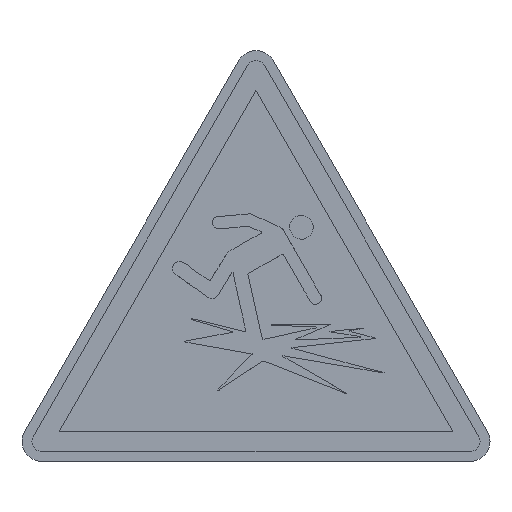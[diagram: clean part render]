
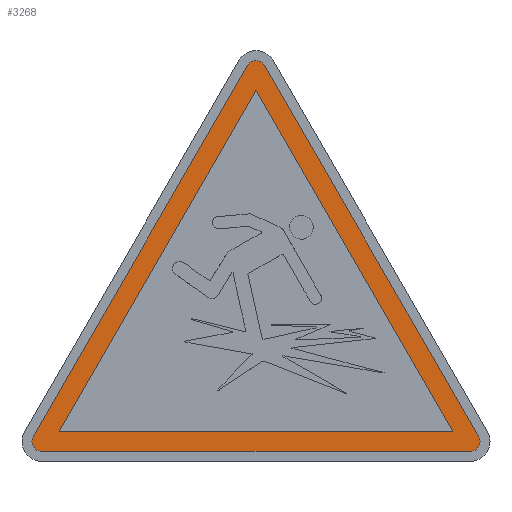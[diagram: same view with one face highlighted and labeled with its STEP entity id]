
A CAD part, top view. The second image highlights one B-rep face of the part: STEP entity #3268.
In plain terms, the highlighted planar face has unit normal (0, 0, 1).
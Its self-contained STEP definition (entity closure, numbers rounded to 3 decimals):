
#21 = ORIENTED_EDGE ( 'NONE', *, *, #6298, .T. ) ;
#426 = ORIENTED_EDGE ( 'NONE', *, *, #10417, .T. ) ;
#433 = DIRECTION ( 'NONE',  ( 0., 0., 1. ) ) ;
#483 = ORIENTED_EDGE ( 'NONE', *, *, #6009, .F. ) ;
#497 = DIRECTION ( 'NONE',  ( 1., 0., 0. ) ) ;
#535 = VERTEX_POINT ( 'NONE', #1940 ) ;
#690 = CIRCLE ( 'NONE', #7251, 1. ) ;
#713 = VERTEX_POINT ( 'NONE', #1659 ) ;
#867 = LINE ( 'NONE', #11749, #5011 ) ;
#902 = CIRCLE ( 'NONE', #4090, 1. ) ;
#903 = VERTEX_POINT ( 'NONE', #8491 ) ;
#1537 = ORIENTED_EDGE ( 'NONE', *, *, #7845, .T. ) ;
#1601 = CARTESIAN_POINT ( 'NONE',  ( -22.402, 2.5, 0.22 ) ) ;
#1659 = CARTESIAN_POINT ( 'NONE',  ( 0.866, 39.801, 0.22 ) ) ;
#1917 = CARTESIAN_POINT ( 'NONE',  ( 0., 39.301, 0.22 ) ) ;
#1940 = CARTESIAN_POINT ( 'NONE',  ( -0.866, 39.801, 0.22 ) ) ;
#2160 = CARTESIAN_POINT ( 'NONE',  ( 21.536, 1., 0.22 ) ) ;
#2396 = LINE ( 'NONE', #3336, #10484 ) ;
#2512 = VECTOR ( 'NONE', #4089, 1000. ) ;
#2641 = ORIENTED_EDGE ( 'NONE', *, *, #9830, .T. ) ;
#2674 = DIRECTION ( 'NONE',  ( 1., 0., 0. ) ) ;
#2686 = VERTEX_POINT ( 'NONE', #3399 ) ;
#2812 = EDGE_CURVE ( 'NONE', #9864, #903, #902, .T. ) ;
#3090 = EDGE_LOOP ( 'NONE', ( #1537, #6958, #21, #426, #3198, #2641 ) ) ;
#3198 = ORIENTED_EDGE ( 'NONE', *, *, #2812, .T. ) ;
#3215 = DIRECTION ( 'NONE',  ( 1., 0., 0. ) ) ;
#3268 = ADVANCED_FACE ( 'NONE', ( #6292, #5347 ), #8875, .T. ) ;
#3336 = CARTESIAN_POINT ( 'NONE',  ( 19.804, 3., 0.22 ) ) ;
#3399 = CARTESIAN_POINT ( 'NONE',  ( -19.804, 3., 0.22 ) ) ;
#3930 = CARTESIAN_POINT ( 'NONE',  ( 19.804, 3., 0.22 ) ) ;
#4089 = DIRECTION ( 'NONE',  ( 1., 0., 0. ) ) ;
#4090 = AXIS2_PLACEMENT_3D ( 'NONE', #7870, #433, #497 ) ;
#4497 = DIRECTION ( 'NONE',  ( -0.5, -0.866, 0. ) ) ;
#4578 = DIRECTION ( 'NONE',  ( 0., 0., 1. ) ) ;
#4615 = DIRECTION ( 'NONE',  ( 1., 0., 0. ) ) ;
#4893 = VERTEX_POINT ( 'NONE', #3930 ) ;
#4977 = LINE ( 'NONE', #8610, #2512 ) ;
#5011 = VECTOR ( 'NONE', #2674, 1000. ) ;
#5053 = EDGE_CURVE ( 'NONE', #535, #6090, #10094, .T. ) ;
#5263 = CARTESIAN_POINT ( 'NONE',  ( -21.536, 1., 0.22 ) ) ;
#5335 = EDGE_CURVE ( 'NONE', #4893, #5792, #2396, .T. ) ;
#5347 = FACE_BOUND ( 'NONE', #8727, .T. ) ;
#5792 = VERTEX_POINT ( 'NONE', #9821 ) ;
#6009 = EDGE_CURVE ( 'NONE', #2686, #4893, #867, .T. ) ;
#6090 = VERTEX_POINT ( 'NONE', #1601 ) ;
#6292 = FACE_OUTER_BOUND ( 'NONE', #3090, .T. ) ;
#6298 = EDGE_CURVE ( 'NONE', #6090, #11041, #690, .T. ) ;
#6447 = LINE ( 'NONE', #9990, #9520 ) ;
#6958 = ORIENTED_EDGE ( 'NONE', *, *, #5053, .T. ) ;
#7002 = VECTOR ( 'NONE', #4497, 1000. ) ;
#7251 = AXIS2_PLACEMENT_3D ( 'NONE', #7300, #4578, #8271 ) ;
#7293 = LINE ( 'NONE', #10979, #8877 ) ;
#7300 = CARTESIAN_POINT ( 'NONE',  ( -21.536, 2., 0.22 ) ) ;
#7583 = DIRECTION ( 'NONE',  ( 0., 0., 1. ) ) ;
#7694 = ORIENTED_EDGE ( 'NONE', *, *, #5335, .F. ) ;
#7845 = EDGE_CURVE ( 'NONE', #713, #535, #10837, .T. ) ;
#7870 = CARTESIAN_POINT ( 'NONE',  ( 21.536, 2., 0.22 ) ) ;
#8193 = DIRECTION ( 'NONE',  ( -0.5, -0.866, 0. ) ) ;
#8271 = DIRECTION ( 'NONE',  ( 1., 0., 0. ) ) ;
#8322 = EDGE_CURVE ( 'NONE', #5792, #2686, #6447, .T. ) ;
#8491 = CARTESIAN_POINT ( 'NONE',  ( 22.402, 2.5, 0.22 ) ) ;
#8610 = CARTESIAN_POINT ( 'NONE',  ( -21.536, 1., 0.22 ) ) ;
#8727 = EDGE_LOOP ( 'NONE', ( #483, #8925, #7694 ) ) ;
#8875 = PLANE ( 'NONE',  #10021 ) ;
#8877 = VECTOR ( 'NONE', #10053, 1000. ) ;
#8925 = ORIENTED_EDGE ( 'NONE', *, *, #8322, .F. ) ;
#9147 = DIRECTION ( 'NONE',  ( 0., 0., 1. ) ) ;
#9202 = CARTESIAN_POINT ( 'NONE',  ( -0.866, 39.801, 0.22 ) ) ;
#9493 = AXIS2_PLACEMENT_3D ( 'NONE', #11406, #7583, #3215 ) ;
#9520 = VECTOR ( 'NONE', #8193, 1000. ) ;
#9821 = CARTESIAN_POINT ( 'NONE',  ( 0., 37.301, 0.22 ) ) ;
#9830 = EDGE_CURVE ( 'NONE', #903, #713, #7293, .T. ) ;
#9864 = VERTEX_POINT ( 'NONE', #2160 ) ;
#9990 = CARTESIAN_POINT ( 'NONE',  ( 0., 37.301, 0.22 ) ) ;
#10021 = AXIS2_PLACEMENT_3D ( 'NONE', #1917, #9147, #4615 ) ;
#10053 = DIRECTION ( 'NONE',  ( -0.5, 0.866, 0. ) ) ;
#10094 = LINE ( 'NONE', #9202, #7002 ) ;
#10417 = EDGE_CURVE ( 'NONE', #11041, #9864, #4977, .T. ) ;
#10484 = VECTOR ( 'NONE', #11415, 1000. ) ;
#10837 = CIRCLE ( 'NONE', #9493, 1. ) ;
#10979 = CARTESIAN_POINT ( 'NONE',  ( 22.402, 2.5, 0.22 ) ) ;
#11041 = VERTEX_POINT ( 'NONE', #5263 ) ;
#11406 = CARTESIAN_POINT ( 'NONE',  ( 0., 39.301, 0.22 ) ) ;
#11415 = DIRECTION ( 'NONE',  ( -0.5, 0.866, 0. ) ) ;
#11749 = CARTESIAN_POINT ( 'NONE',  ( -19.804, 3., 0.22 ) ) ;
